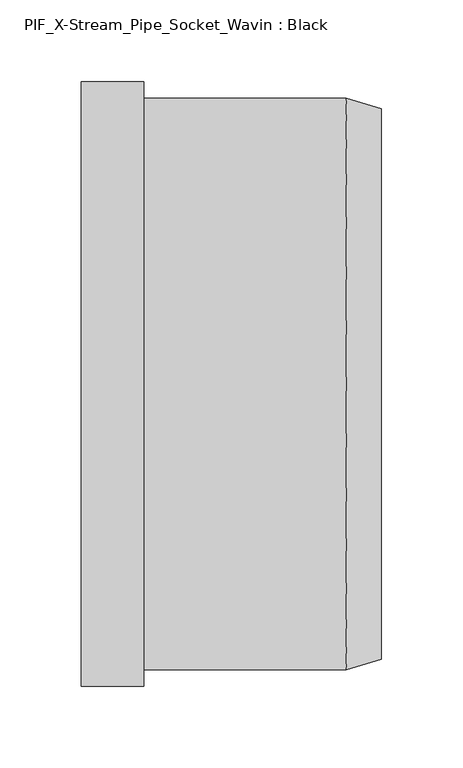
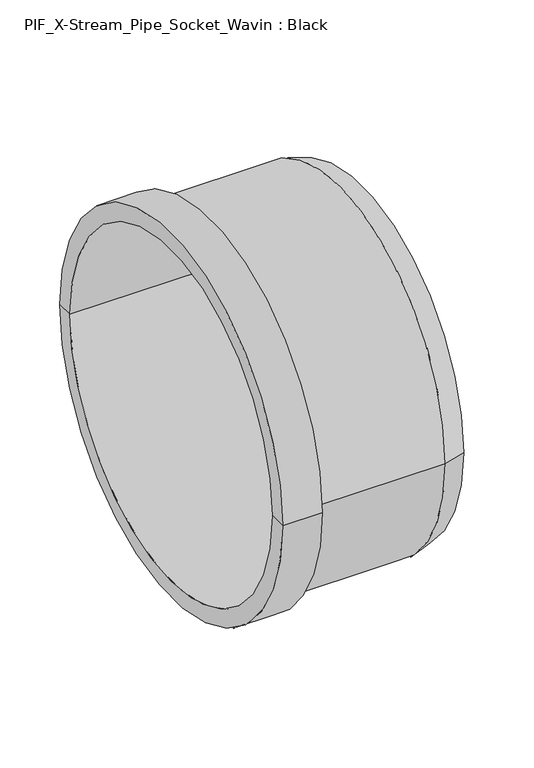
"""IFC4 building model written with IfcOpenShell, lengths in millimetres: pipe fitting geometry, PIF_X-Stream_Pipe_Socket_Wavin : Black."""

from ifc_helpers import new_model, si_unit, frame, origin, place, context, project, spatial, polyline, circle_curve, source, transform, mapped, element, save
from ifc_brep_helpers import plane_surface, cylinder_surface, revolved_surface, advanced_brep


def pif_x_stream_pipe_socket_wavin_black_2128e3df(model_context):
    return source(origin(), model_context, "Body", "AdvancedBrep", [
        advanced_brep(
        [(0.0, 169.0, 0.0), (0.0, -169.0, 0.0), (0.0, 0.0, 0.0), (21.3, 169.0, 0.0), (21.3, -169.0, 0.0), (0.0, -175.4, 0.0), (0.0, 175.4, 0.0), (21.3, 0.0, 0.0), (-162.7, 169.0, 0.0), (-162.7, -169.0, 0.0), (-162.7, 185.7, 0.0), (-162.7, -185.7, 0.0), (-124.5, 185.7, 0.0), (-124.5, -185.7, 0.0), (-124.5, 175.4, 0.0), (-124.5, -175.4, 0.0)],
        [
            (0, 1, circle_curve(frame((0.0, 0.0, 0.0), z_axis=(-1.0, 0.0, 0.0), x_axis=(0.0, -1.0, 0.0)), 169.0)),
            (1, 2),
            (2, 0),
            (3, 4, circle_curve(frame((21.3, 0.0, 0.0), z_axis=(-1.0, 0.0, 0.0), x_axis=(0.0, -1.0, 0.0)), 169.0)),
            (4, 5),
            (5, 6, circle_curve(frame((0.0, 0.0, 0.0), z_axis=(1.0, 0.0, 0.0), x_axis=(0.0, -1.0, 0.0)), 175.4)),
            (6, 3),
            (4, 3, circle_curve(frame((21.3, 0.0, 0.0), z_axis=(-1.0, 0.0, 0.0), x_axis=(0.0, -1.0, 0.0)), 169.0)),
            (6, 5, circle_curve(frame((0.0, 0.0, 0.0), z_axis=(1.0, 0.0, 0.0), x_axis=(0.0, -1.0, 0.0)), 175.4)),
            (7, 4),
            (3, 7),
            (1, 0, circle_curve(frame((0.0, 0.0, 0.0), z_axis=(-1.0, 0.0, 0.0), x_axis=(0.0, -1.0, 0.0)), 169.0)),
            (8, 9, circle_curve(frame((-162.7, 0.0, 0.0), z_axis=(-1.0, 0.0, 0.0), x_axis=(0.0, -1.0, 0.0)), 169.0)),
            (9, 1),
            (0, 8),
            (9, 8, circle_curve(frame((-162.7, 0.0, 0.0), z_axis=(-1.0, 0.0, 0.0), x_axis=(0.0, -1.0, 0.0)), 169.0)),
            (10, 11, circle_curve(frame((-162.7, 0.0, 0.0), z_axis=(-1.0, 0.0, 0.0), x_axis=(0.0, -1.0, 0.0)), 185.7)),
            (11, 9),
            (8, 10),
            (11, 10, circle_curve(frame((-162.7, 0.0, 0.0), z_axis=(-1.0, 0.0, 0.0), x_axis=(0.0, -1.0, 0.0)), 185.7)),
            (12, 13, circle_curve(frame((-124.5, 0.0, 0.0), z_axis=(-1.0, 0.0, 0.0), x_axis=(0.0, -1.0, 0.0)), 185.7)),
            (13, 11),
            (10, 12),
            (13, 12, circle_curve(frame((-124.5, 0.0, 0.0), z_axis=(-1.0, 0.0, 0.0), x_axis=(0.0, -1.0, 0.0)), 185.7)),
            (14, 15, circle_curve(frame((-124.5, 0.0, 0.0), z_axis=(-1.0, 0.0, 0.0), x_axis=(0.0, -1.0, 0.0)), 175.4)),
            (15, 13),
            (12, 14),
            (15, 14, circle_curve(frame((-124.5, 0.0, 0.0), z_axis=(-1.0, 0.0, 0.0), x_axis=(0.0, -1.0, 0.0)), 175.4)),
            (5, 15),
            (14, 6),
        ],
        [
            plane_surface(frame((0.0, 0.0, 0.0), z_axis=(-1.0, 0.0, 0.0), x_axis=(0.0, -1.0, 0.0))),
            revolved_surface(polyline([(0.0, -175.4, 0.0), (21.3, -169.0, 0.0)]), (-2065.8265064, 0.0, 0.0), (1.0, 0.0, 0.0)),
            plane_surface(frame((21.3, 0.0, 0.0), z_axis=(1.0, 0.0, 0.0), x_axis=(0.0, -1.0, 0.0))),
            revolved_surface(polyline([(0.0, -169.0, 0.0), (-162.70000000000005, -169.0, 0.0)]), (-2065.8265064, 0.0, 0.0), (1.0, 0.0, 0.0)),
            plane_surface(frame((-162.7, 0.0, 0.0), z_axis=(-1.0, 0.0, 0.0), x_axis=(0.0, -1.0, 0.0))),
            cylinder_surface(frame((-2065.8265064, 0.0, 0.0), z_axis=(1.0, 0.0, 0.0), x_axis=(0.0, -1.0, 0.0)), 185.7),
            plane_surface(frame((-124.5, 0.0, 0.0), z_axis=(1.0, 0.0, 0.0), x_axis=(0.0, -1.0, 0.0))),
            cylinder_surface(frame((-2065.8265064, 0.0, 0.0), z_axis=(1.0, 0.0, 0.0), x_axis=(0.0, -1.0, 0.0)), 175.4),
        ],
        [
            (0, [[1, 2, 3]]),
            (1, [[4, 5, 6, 7]]),
            (1, [[8, -7, 9, -5]]),
            (2, [[10, -4, 11]]),
            (2, [[-11, -8, -10]]),
            (0, [[12, -3, -2]]),
            (3, [[13, 14, -1, 15]]),
            (3, [[16, -15, -12, -14]]),
            (4, [[17, 18, -13, 19]]),
            (4, [[20, -19, -16, -18]]),
            (5, [[21, 22, -17, 23]]),
            (5, [[24, -23, -20, -22]]),
            (6, [[25, 26, -21, 27]]),
            (6, [[28, -27, -24, -26]]),
            (7, [[-6, 29, -25, 30]]),
            (7, [[-9, -30, -28, -29]]),
        ],
    ),
    ])


if __name__ == "__main__":
    model = new_model("IFC4")
    model_context = context("Model", 3, world=origin())
    ifc_project = project(units=[si_unit("LENGTHUNIT", "METRE", prefix="MILLI")], contexts=[model_context])
    site = spatial("IfcSite", under=ifc_project)
    building = spatial("IfcBuilding", under=site)
    placement = place(None, origin())
    pif_x_stream_pipe_socket_wavin_black_shape = pif_x_stream_pipe_socket_wavin_black_2128e3df(model_context)
    element("IfcPipeFitting", 1, ObjectType="PIF_X-Stream_Pipe_Socket_Wavin : Black", at=placement, inside=building, context=model_context, shape_type="MappedRepresentation", body=[
        mapped(pif_x_stream_pipe_socket_wavin_black_shape, transform((0.0, 0.0, 0.0), x_axis=(1.0, 0.0, 0.0), y_axis=(0.0, 1.0, 0.0), z_axis=(0.0, 0.0, 1.0))),
    ])
    save(model, "model.ifc")
